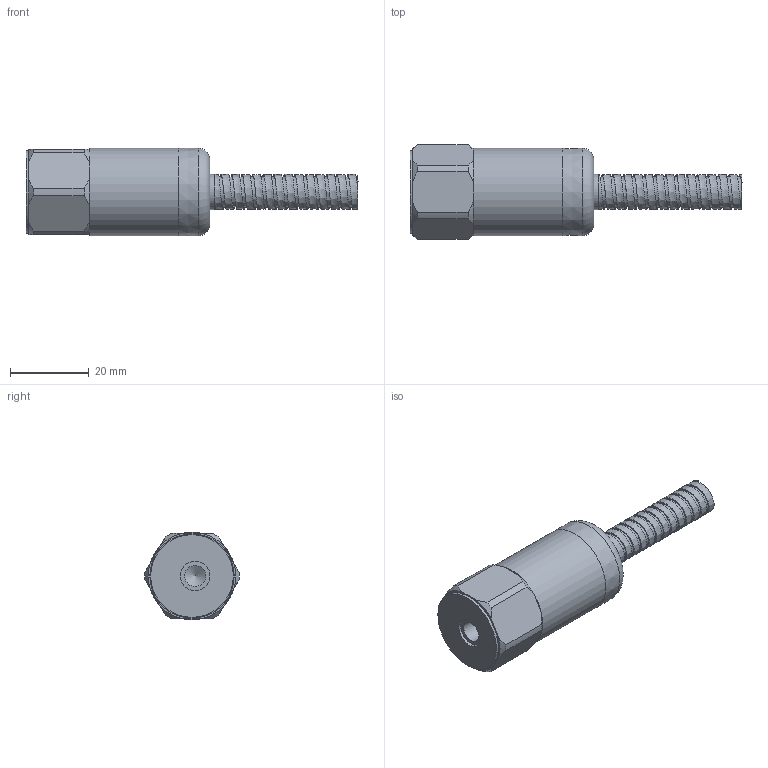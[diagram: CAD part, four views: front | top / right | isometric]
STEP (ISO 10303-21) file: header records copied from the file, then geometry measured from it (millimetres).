
FILE_DESCRIPTION(/* description */ (''),/* implementation_level */ '2;1');
FILE_NAME(/* name */ 'Z:\Engineering\Drawings\3D Library\Assemblies\Website\Premium Top\HS-150 Top FEP Cable with Protective Conduit\HS-150XXX30C01.stp',/* time_stamp */ '2023-03-02T22:25:55+00:00',/* author */ ('Ricardo.Peneda'),/* organization */ (''),/* preprocessor_version */ 'ST-DEVELOPER v18.1',/* originating_system */ 'Autodesk Inventor 2021',/* authorisation */ '');
FILE_SCHEMA (('AUTOMOTIVE_DESIGN { 1 0 10303 214 3 1 1 }'));
Length unit declared in the file: inch
Products named in the file (1): HS-150XXX30C01_Shrinkwrap_1
Bounding box: 84.3 x 23.99 x 22.22 mm (x, y, z)
Volume: 12545.1 mm3; surface area: 10122.9 mm2
Topology: 3 solids, 3 shells, 79 faces, 216 edges, 148 vertices
Faces by surface type: cone 33, plane 24, cylinder 13, bspline 8, torus 1
Full cylindrical faces by diameter (mm): 5.359 x1, 7.5 x1, 9 x1, 15.055 x1, 20 x1, 21 x1, 22.2 x1
Entity records: 16638 total; most frequent: CARTESIAN_POINT 14509, ORIENTED_EDGE 430, DIRECTION 425, EDGE_CURVE 215, AXIS2_PLACEMENT_3D 178, VERTEX_POINT 148, CIRCLE 106, EDGE_LOOP 87
